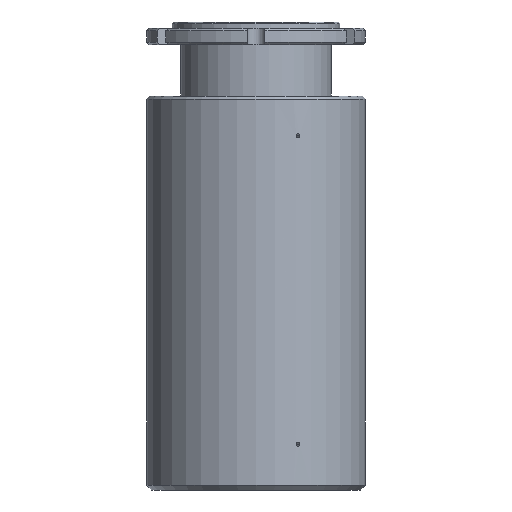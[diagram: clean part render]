
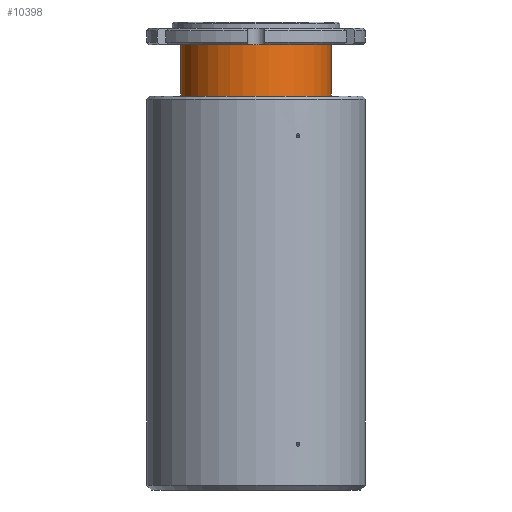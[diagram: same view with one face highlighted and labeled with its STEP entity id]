
A CAD part, front view. The second image highlights one B-rep face of the part: STEP entity #10398.
In plain terms, the highlighted cylindrical face has radius 37.084 mm (diameter 74.168 mm), a partial arc.
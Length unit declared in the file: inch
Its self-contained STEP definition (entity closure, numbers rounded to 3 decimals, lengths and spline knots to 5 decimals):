
#167 = ORIENTED_EDGE ( 'NONE', *, *, #7829, .F. ) ;
#415 = EDGE_LOOP ( 'NONE', ( #167, #5054, #5055, #5044 ) ) ;
#1725 = AXIS2_PLACEMENT_3D ( 'NONE', #7923, #7918, #7927 ) ;
#4471 = AXIS2_PLACEMENT_3D ( 'NONE', #5425, #5426, #5427 ) ;
#4486 = VECTOR ( 'NONE', #9488, 39.37008 ) ;
#4501 = VECTOR ( 'NONE', #5222, 39.37008 ) ;
#4545 = AXIS2_PLACEMENT_3D ( 'NONE', #9710, #9711, #9712 ) ;
#4626 = CIRCLE ( 'NONE', #4471, 1.46 ) ;
#4663 = CIRCLE ( 'NONE', #4545, 1.46 ) ;
#5044 = ORIENTED_EDGE ( 'NONE', *, *, #8037, .F. ) ;
#5054 = ORIENTED_EDGE ( 'NONE', *, *, #7767, .T. ) ;
#5055 = ORIENTED_EDGE ( 'NONE', *, *, #7722, .T. ) ;
#5210 = CARTESIAN_POINT ( 'NONE',  ( -1.46, 0., 0. ) ) ;
#5216 = LINE ( 'NONE', #5210, #4501 ) ;
#5222 = DIRECTION ( 'NONE',  ( 0., 0., 1. ) ) ;
#5425 = CARTESIAN_POINT ( 'NONE',  ( 0., 0., -0.437 ) ) ;
#5426 = DIRECTION ( 'NONE',  ( 0., 0., 1. ) ) ;
#5427 = DIRECTION ( 'NONE',  ( 1., 0., 0. ) ) ;
#6226 = CARTESIAN_POINT ( 'NONE',  ( -1.46, 0., -1.43705 ) ) ;
#6252 = CARTESIAN_POINT ( 'NONE',  ( -1.46, 0., -0.437 ) ) ;
#6264 = CARTESIAN_POINT ( 'NONE',  ( 1.46, 0., -0.437 ) ) ;
#6270 = CARTESIAN_POINT ( 'NONE',  ( 1.46, 0., -1.43705 ) ) ;
#7722 = EDGE_CURVE ( 'NONE', #9994, #9993, #9448, .T. ) ;
#7767 = EDGE_CURVE ( 'NONE', #9940, #9994, #4663, .T. ) ;
#7829 = EDGE_CURVE ( 'NONE', #9940, #9973, #5216, .T. ) ;
#7918 = DIRECTION ( 'NONE',  ( 0., 0., 1. ) ) ;
#7920 = CYLINDRICAL_SURFACE ( 'NONE', #1725, 1.46 ) ;
#7921 = FACE_OUTER_BOUND ( 'NONE', #415, .T. ) ;
#7923 = CARTESIAN_POINT ( 'NONE',  ( 0., 0., 0. ) ) ;
#7927 = DIRECTION ( 'NONE',  ( 1., 0., 0. ) ) ;
#8037 = EDGE_CURVE ( 'NONE', #9973, #9993, #4626, .T. ) ;
#9447 = CARTESIAN_POINT ( 'NONE',  ( 1.46, 0., 0. ) ) ;
#9448 = LINE ( 'NONE', #9447, #4486 ) ;
#9488 = DIRECTION ( 'NONE',  ( 0., 0., 1. ) ) ;
#9710 = CARTESIAN_POINT ( 'NONE',  ( 0., 0., -1.43705 ) ) ;
#9711 = DIRECTION ( 'NONE',  ( 0., 0., 1. ) ) ;
#9712 = DIRECTION ( 'NONE',  ( 1., 0., 0. ) ) ;
#9940 = VERTEX_POINT ( 'NONE', #6226 ) ;
#9973 = VERTEX_POINT ( 'NONE', #6252 ) ;
#9993 = VERTEX_POINT ( 'NONE', #6264 ) ;
#9994 = VERTEX_POINT ( 'NONE', #6270 ) ;
#10398 = ADVANCED_FACE ( 'NONE', ( #7921 ), #7920, .T. ) ;
